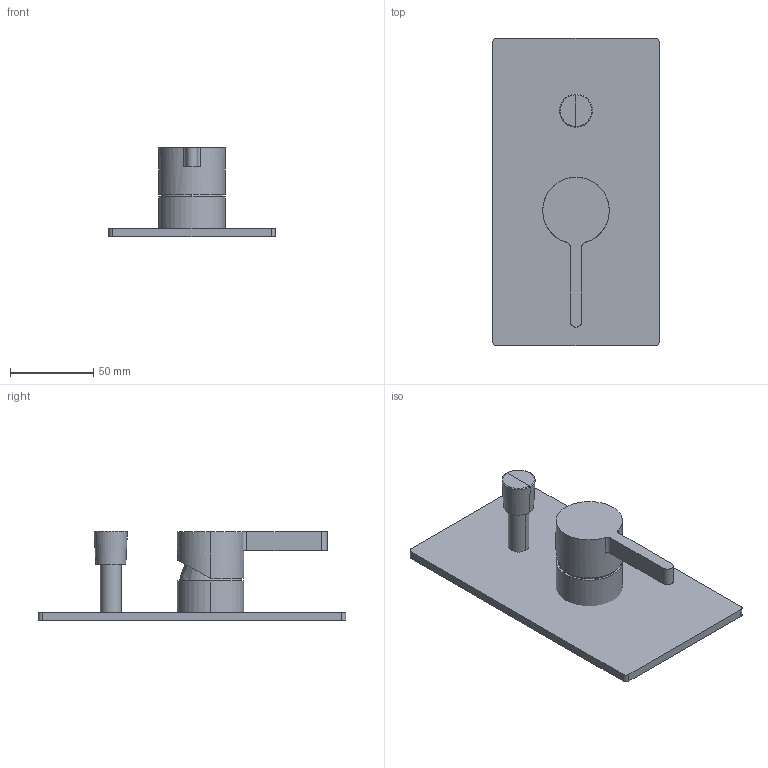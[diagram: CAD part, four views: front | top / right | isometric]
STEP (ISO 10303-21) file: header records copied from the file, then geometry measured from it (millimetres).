
FILE_DESCRIPTION(('FreeCAD Model'),'2;1');
FILE_NAME('Open CASCADE Shape Model','2024-07-23T11:54:18',('Author'),( ''),'Open CASCADE STEP processor 7.6','FreeCAD','Unknown');
FILE_SCHEMA(('AUTOMOTIVE_DESIGN { 1 0 10303 214 1 1 1 1 }'));
Length unit declared in the file: millimetre
Products named in the file (6): TopLevelAssembly; Obrót profilu; Obrót profilu001; Połączona geometria bryłowa; Połączona geometria bryłowa002; Wyciąganie004
Assembly tree (5 placements, depth 2):
  TopLevelAssembly
    Obrót profilu
    Obrót profilu001
    Połączona geometria bryłowa
    Połączona geometria bryłowa002
    Wyciąganie004
Bounding box: 100 x 185 x 54 mm (x, y, z)
Volume: 183263.7 mm3; surface area: 59233.4 mm2
Topology: 5 solids, 5 shells, 41 faces, 82 edges, 49 vertices
Faces by surface type: plane 22, cylinder 13, bspline 6
Entity records: 1264 total; most frequent: CARTESIAN_POINT 270, DIRECTION 202, ORIENTED_EDGE 160, AXIS2_PLACEMENT_3D 81, EDGE_CURVE 80, VERTEX_POINT 49, ADVANCED_FACE 41, FACE_BOUND 41
